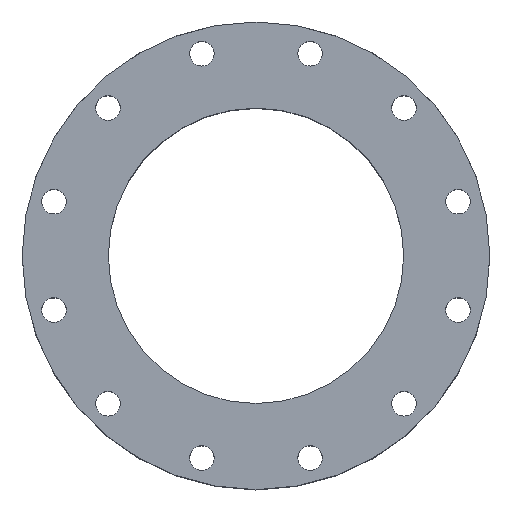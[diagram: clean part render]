
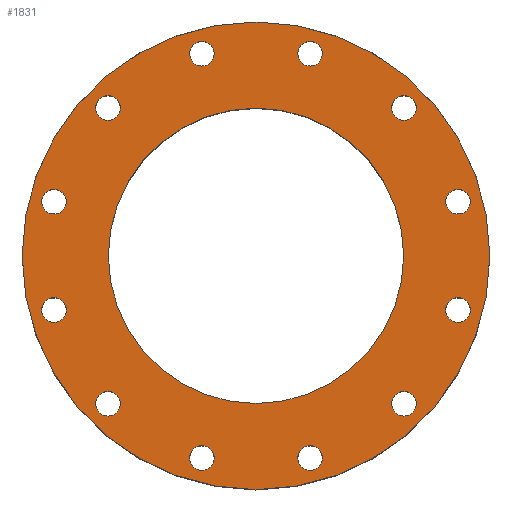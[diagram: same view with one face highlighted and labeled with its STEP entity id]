
A CAD part, top view. The second image highlights one B-rep face of the part: STEP entity #1831.
In plain terms, the highlighted planar face has unit normal (0, 0, 1).
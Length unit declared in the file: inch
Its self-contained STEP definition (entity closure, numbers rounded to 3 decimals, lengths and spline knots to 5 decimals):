
#48=FACE_BOUND('',#321,.T.);
#49=FACE_BOUND('',#322,.T.);
#50=FACE_BOUND('',#323,.T.);
#51=FACE_BOUND('',#324,.T.);
#52=FACE_BOUND('',#325,.T.);
#53=FACE_BOUND('',#326,.T.);
#54=FACE_BOUND('',#327,.T.);
#55=FACE_BOUND('',#328,.T.);
#56=FACE_BOUND('',#329,.T.);
#57=FACE_BOUND('',#330,.T.);
#58=FACE_BOUND('',#331,.T.);
#59=FACE_BOUND('',#332,.T.);
#60=FACE_BOUND('',#333,.T.);
#128=PLANE('',#2033);
#196=FACE_OUTER_BOUND('',#320,.T.);
#320=EDGE_LOOP('',(#1356));
#321=EDGE_LOOP('',(#1357));
#322=EDGE_LOOP('',(#1358));
#323=EDGE_LOOP('',(#1359));
#324=EDGE_LOOP('',(#1360));
#325=EDGE_LOOP('',(#1361));
#326=EDGE_LOOP('',(#1362));
#327=EDGE_LOOP('',(#1363));
#328=EDGE_LOOP('',(#1364));
#329=EDGE_LOOP('',(#1365));
#330=EDGE_LOOP('',(#1366));
#331=EDGE_LOOP('',(#1367));
#332=EDGE_LOOP('',(#1368));
#333=EDGE_LOOP('',(#1369));
#676=CIRCLE('',#1994,0.5);
#678=CIRCLE('',#1997,0.5);
#680=CIRCLE('',#2000,0.5);
#682=CIRCLE('',#2003,0.5);
#684=CIRCLE('',#2006,0.5);
#686=CIRCLE('',#2009,0.5);
#688=CIRCLE('',#2012,0.5);
#690=CIRCLE('',#2015,0.5);
#692=CIRCLE('',#2018,0.5);
#694=CIRCLE('',#2021,0.5);
#696=CIRCLE('',#2024,0.5);
#698=CIRCLE('',#2027,0.5);
#699=CIRCLE('',#2029,6.);
#701=CIRCLE('',#2032,9.5);
#816=VERTEX_POINT('',#2873);
#818=VERTEX_POINT('',#2879);
#820=VERTEX_POINT('',#2885);
#822=VERTEX_POINT('',#2891);
#824=VERTEX_POINT('',#2897);
#826=VERTEX_POINT('',#2903);
#828=VERTEX_POINT('',#2909);
#830=VERTEX_POINT('',#2915);
#832=VERTEX_POINT('',#2921);
#834=VERTEX_POINT('',#2927);
#836=VERTEX_POINT('',#2933);
#838=VERTEX_POINT('',#2939);
#839=VERTEX_POINT('',#2943);
#841=VERTEX_POINT('',#2949);
#997=EDGE_CURVE('',#816,#816,#676,.T.);
#1000=EDGE_CURVE('',#818,#818,#678,.T.);
#1003=EDGE_CURVE('',#820,#820,#680,.T.);
#1006=EDGE_CURVE('',#822,#822,#682,.T.);
#1009=EDGE_CURVE('',#824,#824,#684,.T.);
#1012=EDGE_CURVE('',#826,#826,#686,.T.);
#1015=EDGE_CURVE('',#828,#828,#688,.T.);
#1018=EDGE_CURVE('',#830,#830,#690,.T.);
#1021=EDGE_CURVE('',#832,#832,#692,.T.);
#1024=EDGE_CURVE('',#834,#834,#694,.T.);
#1027=EDGE_CURVE('',#836,#836,#696,.T.);
#1030=EDGE_CURVE('',#838,#838,#698,.T.);
#1031=EDGE_CURVE('',#839,#839,#699,.T.);
#1035=EDGE_CURVE('',#841,#841,#701,.T.);
#1356=ORIENTED_EDGE('',*,*,#1035,.F.);
#1357=ORIENTED_EDGE('',*,*,#997,.T.);
#1358=ORIENTED_EDGE('',*,*,#1000,.T.);
#1359=ORIENTED_EDGE('',*,*,#1003,.T.);
#1360=ORIENTED_EDGE('',*,*,#1006,.T.);
#1361=ORIENTED_EDGE('',*,*,#1009,.T.);
#1362=ORIENTED_EDGE('',*,*,#1012,.T.);
#1363=ORIENTED_EDGE('',*,*,#1015,.T.);
#1364=ORIENTED_EDGE('',*,*,#1018,.T.);
#1365=ORIENTED_EDGE('',*,*,#1021,.T.);
#1366=ORIENTED_EDGE('',*,*,#1024,.T.);
#1367=ORIENTED_EDGE('',*,*,#1027,.T.);
#1368=ORIENTED_EDGE('',*,*,#1030,.T.);
#1369=ORIENTED_EDGE('',*,*,#1031,.T.);
#1831=ADVANCED_FACE('',(#196,#48,#49,#50,#51,#52,#53,#54,#55,#56,#57,#58,
#59,#60),#128,.F.);
#1994=AXIS2_PLACEMENT_3D('',#2875,#2342,#2343);
#1997=AXIS2_PLACEMENT_3D('',#2881,#2349,#2350);
#2000=AXIS2_PLACEMENT_3D('',#2887,#2356,#2357);
#2003=AXIS2_PLACEMENT_3D('',#2893,#2363,#2364);
#2006=AXIS2_PLACEMENT_3D('',#2899,#2370,#2371);
#2009=AXIS2_PLACEMENT_3D('',#2905,#2377,#2378);
#2012=AXIS2_PLACEMENT_3D('',#2911,#2384,#2385);
#2015=AXIS2_PLACEMENT_3D('',#2917,#2391,#2392);
#2018=AXIS2_PLACEMENT_3D('',#2923,#2398,#2399);
#2021=AXIS2_PLACEMENT_3D('',#2929,#2405,#2406);
#2024=AXIS2_PLACEMENT_3D('',#2935,#2412,#2413);
#2027=AXIS2_PLACEMENT_3D('',#2941,#2419,#2420);
#2029=AXIS2_PLACEMENT_3D('',#2944,#2423,#2424);
#2032=AXIS2_PLACEMENT_3D('',#2951,#2431,#2432);
#2033=AXIS2_PLACEMENT_3D('',#2952,#2433,#2434);
#2342=DIRECTION('center_axis',(0.,0.,
-1.));
#2343=DIRECTION('ref_axis',(0.5,-0.866,0.));
#2349=DIRECTION('center_axis',(0.,0.,
-1.));
#2350=DIRECTION('ref_axis',(0.,-1.,0.));
#2356=DIRECTION('center_axis',(0.,0.,
-1.));
#2357=DIRECTION('ref_axis',(-0.5,-0.866,0.));
#2363=DIRECTION('center_axis',(0.,0.,
-1.));
#2364=DIRECTION('ref_axis',(-0.866,-0.5,0.));
#2370=DIRECTION('center_axis',(0.,0.,
-1.));
#2371=DIRECTION('ref_axis',(-1.,0.,0.));
#2377=DIRECTION('center_axis',(0.,0.,
-1.));
#2378=DIRECTION('ref_axis',(-0.866,0.5,0.));
#2384=DIRECTION('center_axis',(0.,0.,
-1.));
#2385=DIRECTION('ref_axis',(-0.5,0.866,0.));
#2391=DIRECTION('center_axis',(0.,0.,
-1.));
#2392=DIRECTION('ref_axis',(0.,1.,0.));
#2398=DIRECTION('center_axis',(0.,0.,
-1.));
#2399=DIRECTION('ref_axis',(0.5,0.866,0.));
#2405=DIRECTION('center_axis',(0.,0.,
-1.));
#2406=DIRECTION('ref_axis',(0.866,0.5,0.));
#2412=DIRECTION('center_axis',(0.,0.,
-1.));
#2413=DIRECTION('ref_axis',(0.866,-0.5,0.));
#2419=DIRECTION('center_axis',(0.,0.,
-1.));
#2420=DIRECTION('ref_axis',(1.,0.,0.));
#2423=DIRECTION('center_axis',(0.,0.,
-1.));
#2424=DIRECTION('ref_axis',(-1.,0.,0.));
#2431=DIRECTION('center_axis',(0.,0.,
-1.));
#2432=DIRECTION('ref_axis',(1.,0.,0.));
#2433=DIRECTION('center_axis',(0.,0.,
-1.));
#2434=DIRECTION('ref_axis',(1.,0.,0.));
#2873=CARTESIAN_POINT('',(-8.46037,-1.76695,4.));
#2875=CARTESIAN_POINT('Origin',(-8.21037,-2.19996,4.));
#2879=CARTESIAN_POINT('',(-8.21037,2.69996,4.));
#2881=CARTESIAN_POINT('Origin',(-8.21037,2.19996,4.));
#2885=CARTESIAN_POINT('',(-5.76041,6.44342,4.));
#2887=CARTESIAN_POINT('Origin',(-6.01041,6.01041,4.));
#2891=CARTESIAN_POINT('',(-1.76695,8.46037,4.));
#2893=CARTESIAN_POINT('Origin',(-2.19996,8.21037,4.));
#2897=CARTESIAN_POINT('',(2.69996,8.21037,4.));
#2899=CARTESIAN_POINT('Origin',(2.19996,8.21037,4.));
#2903=CARTESIAN_POINT('',(6.44342,5.76041,4.));
#2905=CARTESIAN_POINT('Origin',(6.01041,6.01041,4.));
#2909=CARTESIAN_POINT('',(8.46037,1.76695,4.));
#2911=CARTESIAN_POINT('Origin',(8.21037,2.19996,4.));
#2915=CARTESIAN_POINT('',(8.21037,-2.69996,4.));
#2917=CARTESIAN_POINT('Origin',(8.21037,-2.19996,4.));
#2921=CARTESIAN_POINT('',(5.76041,-6.44342,4.));
#2923=CARTESIAN_POINT('Origin',(6.01041,-6.01041,4.));
#2927=CARTESIAN_POINT('',(1.76695,-8.46037,4.));
#2929=CARTESIAN_POINT('Origin',(2.19996,-8.21037,4.));
#2933=CARTESIAN_POINT('',(-6.44342,-5.76041,4.));
#2935=CARTESIAN_POINT('Origin',(-6.01041,-6.01041,4.));
#2939=CARTESIAN_POINT('',(-2.69996,-8.21037,4.));
#2941=CARTESIAN_POINT('Origin',(-2.19996,-8.21037,4.));
#2943=CARTESIAN_POINT('',(6.,0.,4.));
#2944=CARTESIAN_POINT('Origin',(0.,0.,
4.));
#2949=CARTESIAN_POINT('',(-9.5,0.,4.));
#2951=CARTESIAN_POINT('Origin',(0.,0.,
4.));
#2952=CARTESIAN_POINT('Origin',(0.,0.,
4.));
